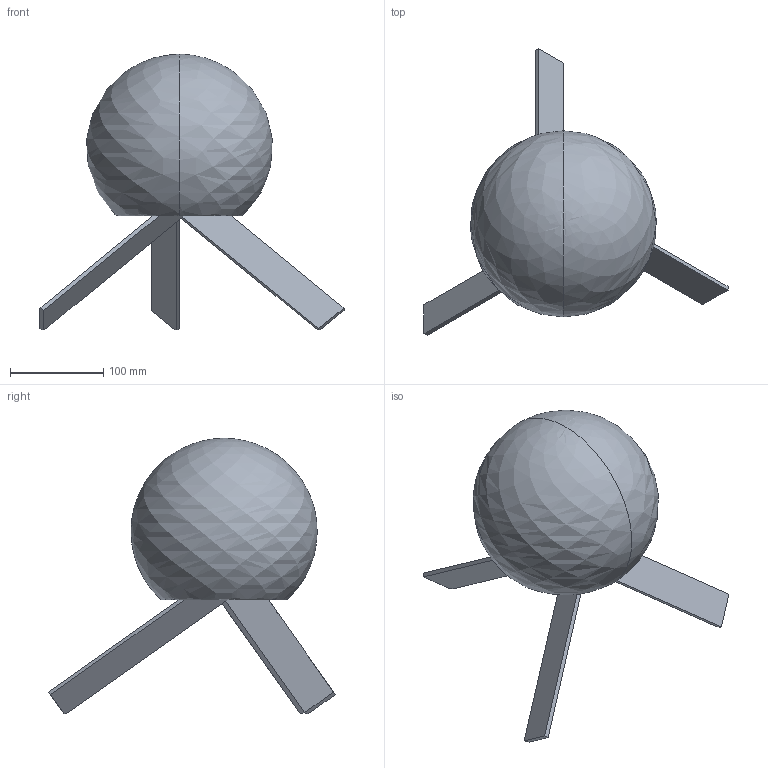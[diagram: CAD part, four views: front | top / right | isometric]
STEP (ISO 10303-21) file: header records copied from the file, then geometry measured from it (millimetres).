
FILE_DESCRIPTION(/* description */ (''),/* implementation_level */ '2;1');
FILE_NAME(/* name */ 'To The Top, 2015',/* time_stamp */ '2020-10-12T12:32:40+01:00',/* author */ (''),/* organization */ (''),/* preprocessor_version */ 'ST-DEVELOPER v15',/* originating_system */ '',/* authorisation */ '');
FILE_SCHEMA (('AUTOMOTIVE_DESIGN'));
Length unit declared in the file: millimetre
Products named in the file (1): Document
Bounding box: 326.61 x 308.13 x 295.85 mm (x, y, z)
Volume: 4093613.6 mm3; surface area: 172652.3 mm2
Topology: 1 solids, 1 shells, 21 faces, 54 edges, 34 vertices
Faces by surface type: plane 19, bspline 2
Entity records: 684 total; most frequent: CARTESIAN_POINT 299, ORIENTED_EDGE 104, EDGE_CURVE 52, B_SPLINE_CURVE_WITH_KNOTS 48, VERTEX_POINT 34, DIRECTION 23, EDGE_LOOP 22, ADVANCED_FACE 21
